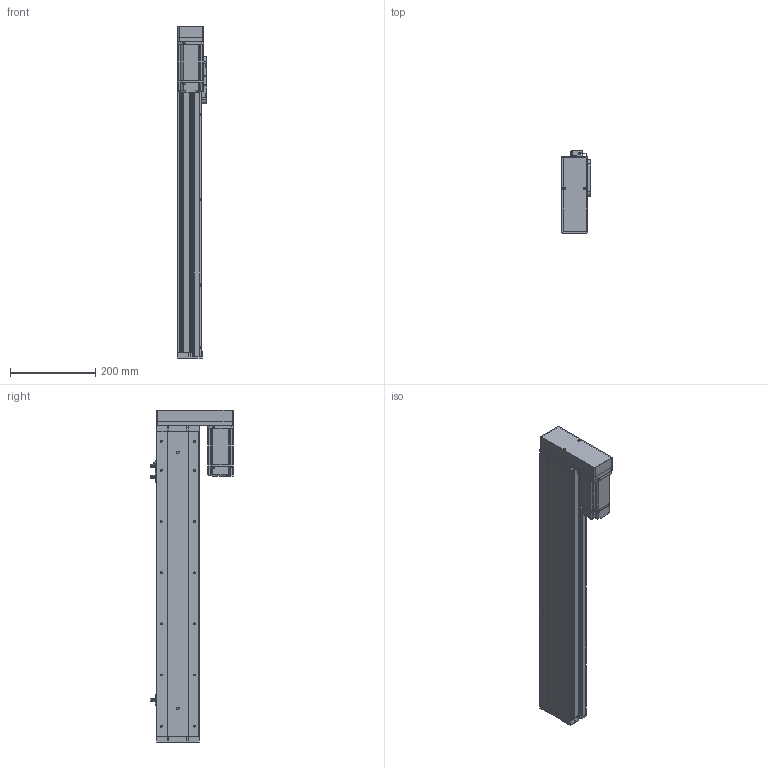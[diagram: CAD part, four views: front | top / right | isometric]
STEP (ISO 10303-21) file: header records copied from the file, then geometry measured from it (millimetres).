
FILE_DESCRIPTION (( 'STEP AP214' ), '1' );
FILE_NAME ('KSD100S-S550-MR-CR.STEP', '2019-09-03T01:16:06', ( '微软用户' ), ( '微软中国' ), 'SwSTEP 2.0', 'SolidWorks 2014', '' );
FILE_SCHEMA (( 'AUTOMOTIVE_DESIGN' ));
Length unit declared in the file: millimetre
Products named in the file (14): 感应片100宽全封闭; 100宽马达安装板全封闭; 100宽端板全封闭; 100宽滚珠螺姆安装板1防护罩; 100宽滚珠螺姆安装板1; 100遵裔啣揤啣; 100遵裔啣550俴最; 100遵耜啣550俴最佪裝; 100宽底板全封闭550行程丝杆; KSD100S-S550-MR-CR; MHMD042G1CA_2_03; U倰嫖萇EEㄜSX672; 悵誘欶酘衵殏; 100宽马达安装板连板左右折丝杆
Assembly tree (17 placements, depth 2):
  KSD100S-S550-MR-CR
    100宽底板全封闭550行程丝杆
    100遵耜啣550俴最佪裝  x2
    100遵裔啣550俴最
    100遵裔啣揤啣  x2
    100宽滚珠螺姆安装板1
    100宽滚珠螺姆安装板1防护罩
    100宽端板全封闭
    100宽马达安装板全封闭
    感应片100宽全封闭
    100宽马达安装板连板左右折丝杆
    悵誘欶酘衵殏
    U倰嫖萇EEㄜSX672  x3
    MHMD042G1CA_2_03
Bounding box: 70 x 193.7 x 778.5 mm (x, y, z)
Volume: 1628070.2 mm3; surface area: 745728.9 mm2
Topology: 16 solids, 17 shells, 1653 faces, 4608 edges, 2942 vertices
Faces by surface type: cylinder 711, plane 699, cone 225, bspline 18
Entity records: 55182 total; most frequent: CARTESIAN_POINT 8654, DIRECTION 7869, ORIENTED_EDGE 7280, EDGE_CURVE 3712, AXIS2_PLACEMENT_3D 2813, VERTEX_POINT 2460, VECTOR 2243, LINE 2243
